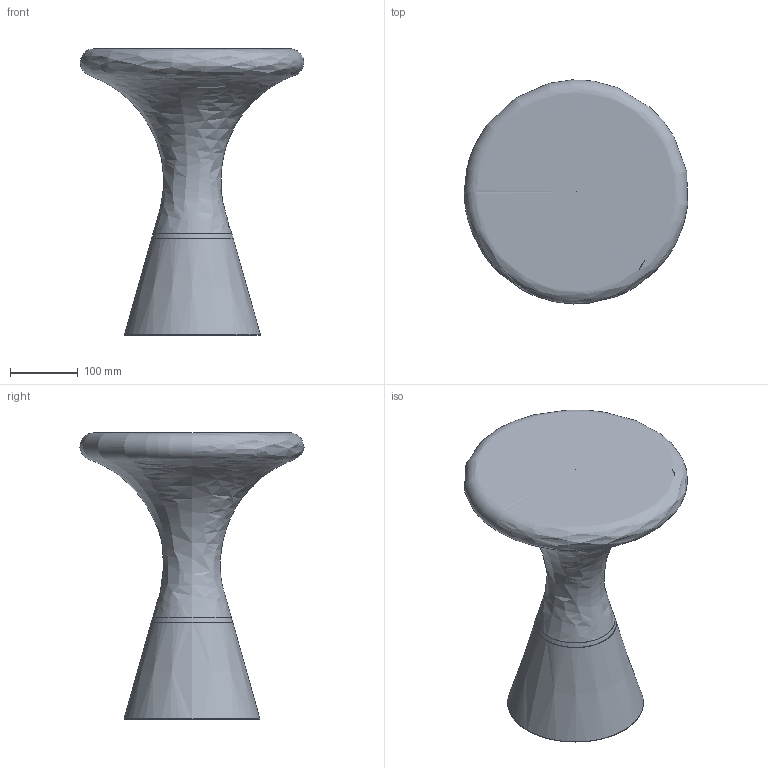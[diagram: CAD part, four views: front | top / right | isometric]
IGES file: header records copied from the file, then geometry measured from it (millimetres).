
Global section: file name: /Users/danielszollosi/Documents/SkLO/Sklo.com/3D models/Furniture/SkLO_TB111_JoinTable_Small.igs; native system: Rhinoceros ( Sep 24 2023 ); preprocessor: Trout Lake IGES 012 Sep 24 2023; date: 241216.100708; units: millimetre
Bounding box: 328.79 x 329.72 x 421.01 mm (x, y, z)
Surface area: 562233.4 mm2 (no closed solid volume)
Topology: 0 solids, 0 shells, 18 faces, 64 edges, 44 vertices
Faces by surface type: bspline 18
